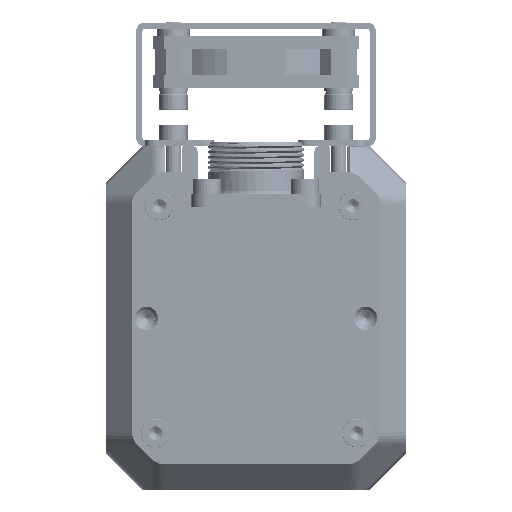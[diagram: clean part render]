
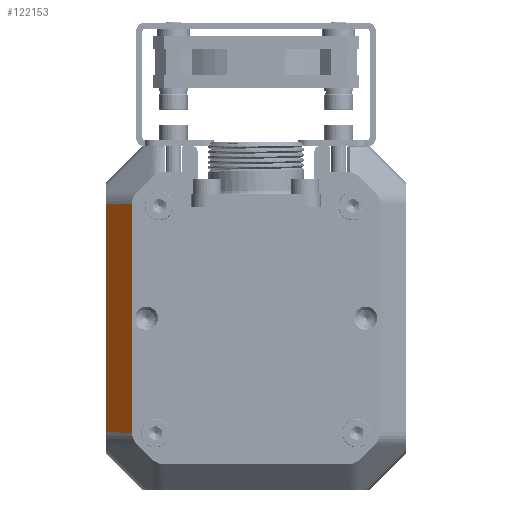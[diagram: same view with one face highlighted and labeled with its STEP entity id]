
A CAD part, front view. The second image highlights one B-rep face of the part: STEP entity #122153.
In plain terms, the highlighted planar face has unit normal (-0.707, -0.707, 0).
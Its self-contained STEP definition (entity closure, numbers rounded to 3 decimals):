
#16765=CARTESIAN_POINT('',(-24.,-685.,-55.435));
#16773=DIRECTION('',(0.707,-0.707,-0.02));
#16774=VECTOR('',#16773,7.072);
#16775=CARTESIAN_POINT('',(-29.,-680.,-55.297));
#16776=LINE('',#16775,#16774);
#16777=DIRECTION('',(0.,0.,-1.));
#16778=VECTOR('',#16777,44.094);
#16779=CARTESIAN_POINT('',(-29.,-680.,-11.203));
#16780=LINE('',#16779,#16778);
#16781=DIRECTION('',(-0.707,0.707,-0.02));
#16782=VECTOR('',#16781,7.072);
#16783=CARTESIAN_POINT('',(-24.,-685.,-11.065));
#16784=LINE('',#16783,#16782);
#16785=DIRECTION('',(0.,0.,1.));
#16786=VECTOR('',#16785,44.371);
#16787=CARTESIAN_POINT('',(-24.,-685.,-55.435));
#16788=LINE('',#16787,#16786);
#16799=CARTESIAN_POINT('',(-29.,-680.,-11.203));
#78567=VERTEX_POINT('',#16765);
#78568=CARTESIAN_POINT('',(-24.,-685.,-11.065));
#78569=VERTEX_POINT('',#78568);
#78779=VERTEX_POINT('',#16799);
#78780=CARTESIAN_POINT('',(-29.,-680.,-55.297));
#78781=VERTEX_POINT('',#78780);
#122140=CARTESIAN_POINT('',(-26.5,-682.5,-33.25));
#122141=DIRECTION('',(-0.707,-0.707,0.));
#122142=DIRECTION('',(-0.707,0.707,0.));
#122143=AXIS2_PLACEMENT_3D('',#122140,#122141,#122142);
#122144=PLANE('',#122143);
#122145=ORIENTED_EDGE('',*,*,#122124,.F.);
#122146=ORIENTED_EDGE('',*,*,#101582,.F.);
#122148=ORIENTED_EDGE('',*,*,#122147,.F.);
#122150=ORIENTED_EDGE('',*,*,#122149,.F.);
#122151=EDGE_LOOP('',(#122145,#122146,#122148,#122150));
#122152=FACE_OUTER_BOUND('',#122151,.F.);
#101582=EDGE_CURVE('',#78779,#78781,#16780,.T.);
#122124=EDGE_CURVE('',#78781,#78567,#16776,.T.);
#122147=EDGE_CURVE('',#78569,#78779,#16784,.T.);
#122149=EDGE_CURVE('',#78567,#78569,#16788,.T.);
#122153=ADVANCED_FACE('',(#122152),#122144,.T.);
